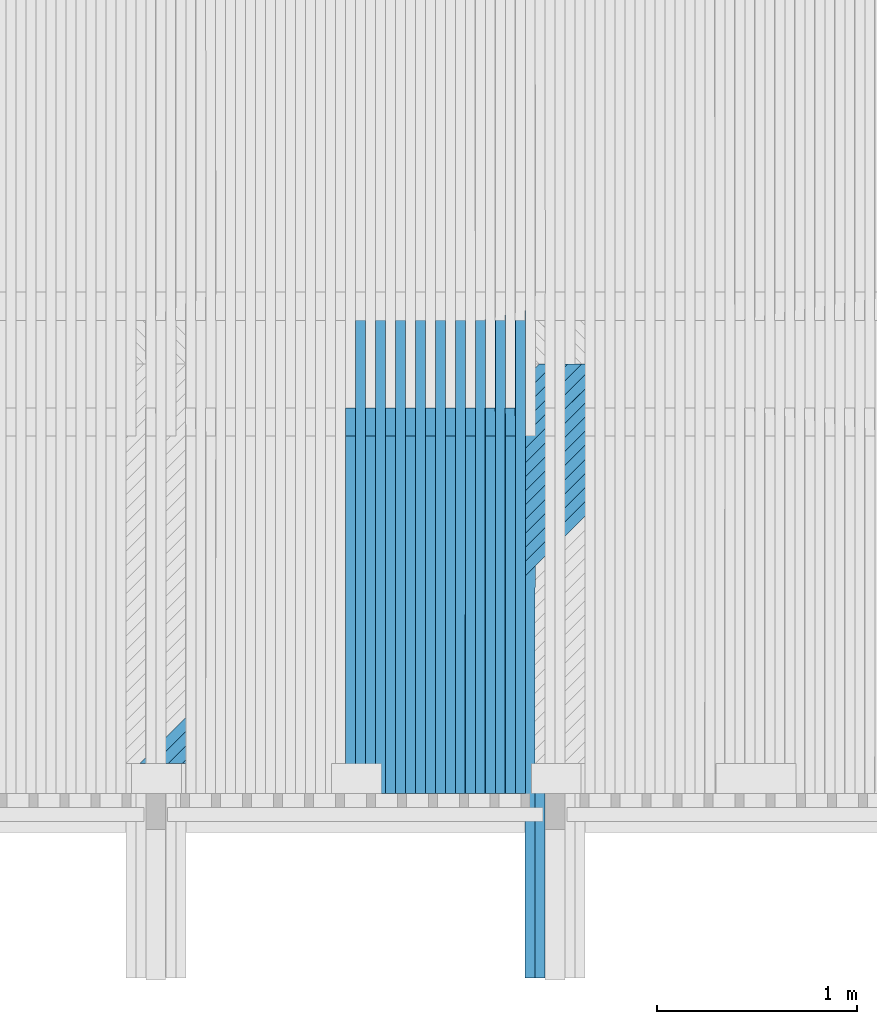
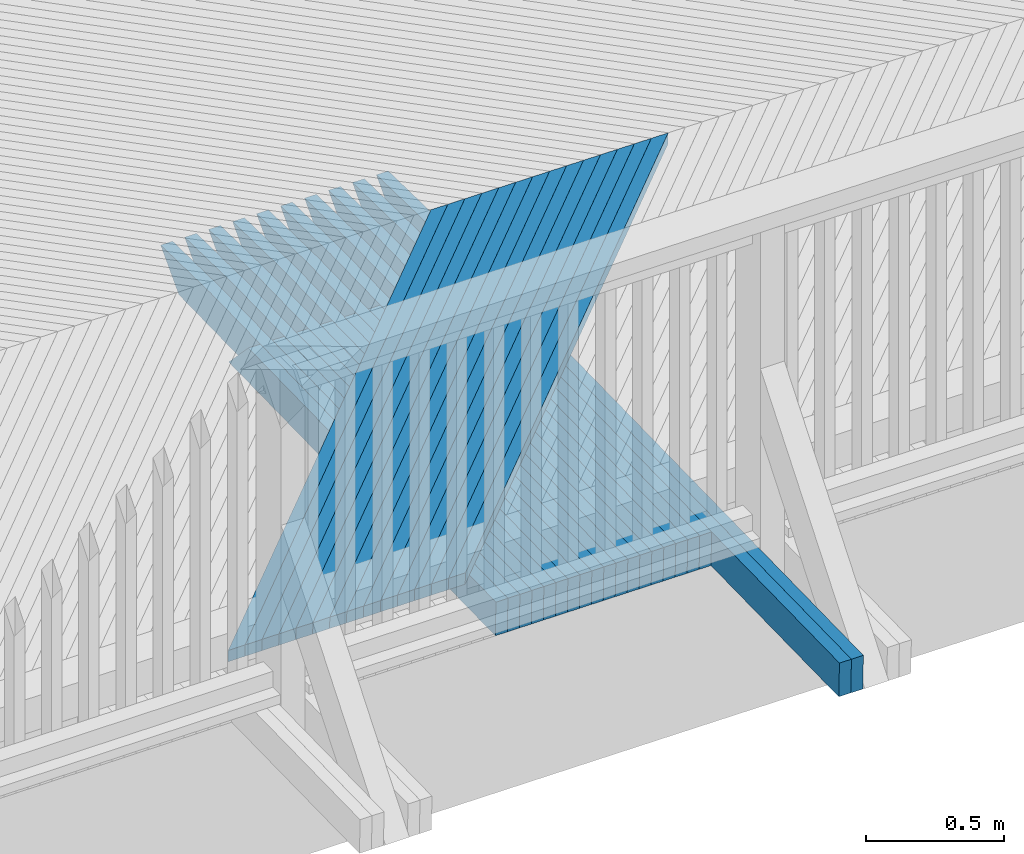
# One storey, part 32 of 53: 34 beams.
"""IFC2X3 building model written with IfcOpenShell, lengths in millimetres."""

from ifc_helpers import new_model, si_unit, frame, origin_with_axes, place, context, subcontext, project, spatial, faceted_brep, material, type_object, element, save


model = new_model("IFC2X3")

# Units and contexts
model_context = context("Model", 3, precision=1e-05, world=origin_with_axes())
body_context = subcontext(model_context, "Body", "Model", "MODEL_VIEW")
ifc_project = project(units=[si_unit("LENGTHUNIT", "METRE", prefix="MILLI"), si_unit("AREAUNIT", "SQUARE_METRE"), si_unit("VOLUMEUNIT", "CUBIC_METRE"), si_unit("MASSUNIT", "GRAM", prefix="KILO"), si_unit("TIMEUNIT", "SECOND"), si_unit("PLANEANGLEUNIT", "RADIAN"), si_unit("SOLIDANGLEUNIT", "STERADIAN"), si_unit("THERMODYNAMICTEMPERATUREUNIT", "DEGREE_CELSIUS"), si_unit("LUMINOUSINTENSITYUNIT", "LUMEN")], contexts=[model_context])

# Site, building, storey
site_placement = place(None, origin_with_axes())
site = spatial("IfcSite", under=ifc_project, at=site_placement, Name="Undefined", CompositionType="ELEMENT")
building_placement = place(site_placement, origin_with_axes())
building = spatial("IfcBuilding", under=site, at=building_placement, Name="Undefined", CompositionType="ELEMENT")
storey_placement = place(building_placement, origin_with_axes())
storey = spatial("IfcBuildingStorey", under=building, at=storey_placement, Name="Undefined", CompositionType="ELEMENT", Elevation=0.0)

# Beams
ifc_material = material(Name="TIMBER/Timber_Undefined")
beam_type_1 = type_object("IfcBeamType", Name="50*50", PredefinedType="NOTDEFINED")
for number, where, z_axis, x_axis, name in (
    (1, (12874.2769605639, 42364.5001003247, 3216.39230435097), (0.70698710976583, -0.706981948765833, -0.0185943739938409), (-0.707198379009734, -0.706948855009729, -0.00968344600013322), "BEAM"),
    (2, (12803.5550110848, 42364.5001003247, 3216.96068661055), (0.706989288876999, -0.706981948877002, -0.0185113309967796), (-0.707197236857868, -0.706948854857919, -0.00976651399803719), "BEAM"),
    (3, (12732.832995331, 42364.5001003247, 3217.52076181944), (0.706991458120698, -0.706981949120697, -0.0184282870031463), (-0.707196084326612, -0.706948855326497, -0.00984958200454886), "BEAM"),
    (4, (12662.1109142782, 42364.5001003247, 3218.07252996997), (0.706993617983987, -0.706981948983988, -0.0183452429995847), (-0.707194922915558, -0.706948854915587, -0.00993264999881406), "BEAM"),
    (5, (12591.3887689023, 42364.5001003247, 3218.61599105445), (0.706995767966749, -0.706981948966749, -0.0182621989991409), (-0.707193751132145, -0.706948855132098, -0.0100157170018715), "BEAM"),
    (6, (12520.666560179, 42364.5001003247, 3219.15114506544), (0.706997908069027, -0.706981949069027, -0.0181791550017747), (-0.707192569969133, -0.706948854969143, -0.0100987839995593), "BEAM"),
    (7, (12449.944289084, 42364.5001003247, 3219.67799199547), (0.707000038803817, -0.706981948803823, -0.0180961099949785), (-0.707191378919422, -0.706948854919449, -0.0101818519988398), "BEAM"),
    (8, (12379.2219565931, 42364.5001003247, 3220.19653183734), (0.70700215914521, -0.706981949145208, -0.0180130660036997), (-0.707190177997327, -0.706948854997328, -0.0102649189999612), "BEAM"),
    (9, (12308.499563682, 42364.5001003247, 3220.70676458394), (0.707004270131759, -0.706981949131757, -0.0179300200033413), (-0.707188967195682, -0.706948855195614, -0.0103479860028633), "BEAM"),
    (10, (12237.7771113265, 42364.5001003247, 3221.20869022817), (0.707006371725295, -0.706981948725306, -0.0178469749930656), (-0.707187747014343, -0.706948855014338, -0.0104310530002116), "BEAM"),
    (11, (12167.0546005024, 42364.5001003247, 3221.70230876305), (0.707008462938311, -0.706981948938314, -0.0177639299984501), (-0.70718651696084, -0.706948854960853, -0.0105141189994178), "BEAM"),
    (12, (12096.3320321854, 42364.5001003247, 3222.18762018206), (0.707010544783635, -0.706981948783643, -0.017680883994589), (-0.707185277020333, -0.706948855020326, -0.0105971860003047), "BEAM"),
    (13, (12025.6094073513, 42364.5001003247, 3222.66462447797), (0.70701261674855, -0.706981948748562, -0.0175978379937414), (-0.707184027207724, -0.706948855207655, -0.0106802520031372), "BEAM"),
    (14, (11954.8867269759, 42364.5001003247, 3223.13332164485), (0.707014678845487, -0.706981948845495, -0.0175147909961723), (-0.707182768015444, -0.706948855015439, -0.0107633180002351), "BEAM"),
):
    element("IfcBeam", number, at=place(storey_placement, frame(where, z_axis=z_axis, x_axis=x_axis)), inside=storey, type_object=beam_type_1, material=ifc_material, Name=name, ObjectType="50*50", context=body_context, shape_type="Brep", body=[
        faceted_brep([(24.8942457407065, 25.0, -25.0), (-25.0086637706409, 24.9999999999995, 24.9999999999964), (2804.34067830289, 25.0, 25.0000000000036), (2854.34301907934, 24.9999999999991, -25.0000000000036), (-26.4222658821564, -25.0000000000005, 25.0000000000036), (2802.92643296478, -25.0, 25.0), (23.4806436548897, -25.0, -25.0), (2852.92877373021, -25.0000000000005, -25.0000000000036)], [[[0, 1, 2, 3]], [[1, 4, 5, 2]], [[4, 6, 7, 5]], [[6, 0, 3, 7]], [[5, 7, 3, 2]], [[6, 4, 1, 0]]]),
    ])
beam_type_2 = type_object("IfcBeamType", Name="150*50", PredefinedType="NOTDEFINED")
beam_1_placement = place(storey_placement, frame((11874.7735217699, 39292.789316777, 3062.2002056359), z_axis=(0.00635604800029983, -0.0199960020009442, 0.999779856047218), x_axis=(0.000128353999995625, 0.999800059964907, 0.0199955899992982)))
element("IfcBeam", 15, at=beam_1_placement, inside=storey, type_object=beam_type_2, material=ifc_material, Name="BEAM", ObjectType="150*50", context=body_context, shape_type="Brep", body=[
    faceted_brep([(1.28420651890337e-08, -24.9999999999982, -74.9999999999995), (-1.28347892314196e-08, -24.9999999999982, 75.0), (-1.28347892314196e-08, 25.0, 75.0), (1.28420651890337e-08, 25.0000000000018, -75.0), (2713.86938248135, -25.0000000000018, 74.9999999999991), (2713.86933800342, 25.0000000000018, 75.0), (2852.32643692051, 24.9999999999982, -75.0000000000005), (2852.32648139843, -25.0000000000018, -75.0000000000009)], [[[0, 1, 2, 3]], [[2, 1, 4, 5]], [[3, 2, 5, 6]], [[0, 3, 6, 7]], [[1, 0, 7, 4]], [[7, 6, 5, 4]]]),
])
beam_2_placement = place(storey_placement, frame((11924.7947374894, 39292.7893321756, 3061.87388867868), z_axis=(0.00652216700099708, -0.0199960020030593, 0.999778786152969), x_axis=(0.000130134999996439, 0.999800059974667, 0.0199955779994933)))
element("IfcBeam", 16, at=beam_2_placement, inside=storey, type_object=beam_type_2, material=ifc_material, Name="BEAM", ObjectType="150*50", context=body_context, shape_type="Brep", body=[
    faceted_brep([(1.28420651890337e-08, -24.9999999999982, -74.9999999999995), (-1.28347892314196e-08, -24.9999999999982, 75.0), (-1.28347892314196e-08, 25.0, 75.0), (1.28420651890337e-08, 25.0000000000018, -75.0), (3298.90492234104, 25.0, -75.0), (3298.90497884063, -24.9999999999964, -75.0), (3434.49251531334, -24.9999999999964, 60.587536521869), (3074.32503029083, -25.0, 75.0000000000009), (3074.32503673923, 25.0000000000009, 75.0), (3434.49245887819, 25.0, 60.5875365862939)], [[[0, 1, 2, 3]], [[0, 3, 4, 5]], [[1, 0, 5, 6, 7]], [[2, 1, 7, 8]], [[4, 3, 2, 8, 9]], [[5, 4, 9, 6]], [[6, 9, 8, 7]]]),
])
beam_3_placement = place(storey_placement, frame((11775.3075869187, 40216.5046076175, 3081.30926986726), z_axis=(0.00619097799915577, -0.019996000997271, 0.999780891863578), x_axis=(0.000123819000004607, 0.999800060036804, 0.0199956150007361)))
element("IfcBeam", 17, at=beam_3_placement, inside=storey, type_object=beam_type_2, material=ifc_material, Name="BEAM", ObjectType="150*50", context=body_context, shape_type="Brep", body=[
    faceted_brep([(1.28420651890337e-08, -24.9999999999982, -74.9999999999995), (-1.28347892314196e-08, -24.9999999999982, 75.0), (-1.28347892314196e-08, 25.0, 75.0), (1.28420651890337e-08, 25.0000000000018, -75.0), (1789.96936433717, -25.0000000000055, 74.9999999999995), (1789.96936408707, 24.9999999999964, 75.0000000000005), (1928.42646328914, 24.9999999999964, -74.9999999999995), (1928.42646353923, -25.0000000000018, -75.0)], [[[0, 1, 2, 3]], [[2, 1, 4, 5]], [[3, 2, 5, 6]], [[0, 3, 6, 7]], [[1, 0, 7, 4]], [[6, 5, 4, 7]]]),
])
beam_4_placement = place(storey_placement, frame((11825.3266087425, 40216.5046076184, 3080.99122584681), z_axis=(0.00635709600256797, -0.0199960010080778, 0.999779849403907), x_axis=(0.000127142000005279, 0.99980006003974, 0.0199955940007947)))
element("IfcBeam", 18, at=beam_4_placement, inside=storey, type_object=beam_type_2, material=ifc_material, Name="BEAM", ObjectType="150*50", context=body_context, shape_type="Brep", body=[
    faceted_brep([(1.28420651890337e-08, -24.9999999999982, -74.9999999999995), (-1.28347892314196e-08, -24.9999999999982, 75.0), (-1.28347892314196e-08, 25.0, 75.0), (1.28420651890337e-08, 25.0000000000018, -75.0), (2375.00494422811, 25.0000000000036, -75.0), (2375.0049444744, -24.9999999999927, -74.9999999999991), (2510.5924871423, -24.9999999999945, 60.5875430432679), (2150.42514405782, -24.9999999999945, 75.0), (2150.42515052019, 25.0000000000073, 75.0), (2510.59248715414, 25.0000000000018, 60.5875433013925)], [[[0, 1, 2, 3]], [[0, 3, 4, 5]], [[1, 0, 5, 6, 7]], [[2, 1, 7, 8]], [[4, 3, 2, 8, 9]], [[5, 4, 9, 6]], [[6, 9, 8, 7]]]),
])
beam_5_placement = place(storey_placement, frame((11675.2894688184, 40216.5046076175, 3081.92824813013), z_axis=(0.00602485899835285, -0.0199960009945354, 0.9997819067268), x_axis=(0.000120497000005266, 0.9998000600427, 0.019995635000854)))
element("IfcBeam", 19, at=beam_5_placement, inside=storey, type_object=beam_type_2, material=ifc_material, Name="BEAM", ObjectType="150*50", context=body_context, shape_type="Brep", body=[
    faceted_brep([(1.28420651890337e-08, -24.9999999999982, -74.9999999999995), (-1.28347892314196e-08, -24.9999999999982, 75.0), (-1.28347892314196e-08, 25.0, 75.0), (1.28420651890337e-08, 25.0000000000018, -75.0), (1789.96936433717, -25.0000000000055, 74.9999999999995), (1789.96936408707, 24.9999999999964, 75.0000000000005), (1928.42646328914, 24.9999999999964, -74.9999999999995), (1928.42646353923, -25.0000000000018, -75.0)], [[[0, 1, 2, 3]], [[2, 1, 4, 5]], [[3, 2, 5, 6]], [[0, 3, 6, 7]], [[1, 0, 7, 4]], [[6, 5, 4, 7]]]),
])
beam_6_placement = place(storey_placement, frame((11725.3085427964, 40216.5046076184, 3081.61851504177), z_axis=(0.00619097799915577, -0.019996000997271, 0.999780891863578), x_axis=(0.000123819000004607, 0.999800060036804, 0.0199956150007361)))
element("IfcBeam", 20, at=beam_6_placement, inside=storey, type_object=beam_type_2, material=ifc_material, Name="BEAM", ObjectType="150*50", context=body_context, shape_type="Brep", body=[
    faceted_brep([(1.28420651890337e-08, -24.9999999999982, -74.9999999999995), (-1.28347892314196e-08, -24.9999999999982, 75.0), (-1.28347892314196e-08, 25.0, 75.0), (1.28420651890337e-08, 25.0000000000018, -75.0), (2375.00494422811, 25.0000000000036, -75.0), (2375.0049444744, -24.9999999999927, -74.9999999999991), (2510.5924871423, -24.9999999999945, 60.5875430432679), (2150.42514405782, -24.9999999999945, 75.0), (2150.42515052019, 25.0000000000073, 75.0), (2510.59248715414, 25.0000000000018, 60.5875433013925)], [[[0, 1, 2, 3]], [[0, 3, 4, 5]], [[1, 0, 5, 6, 7]], [[2, 1, 7, 8]], [[4, 3, 2, 8, 9]], [[5, 4, 9, 6]], [[6, 9, 8, 7]]]),
])
beam_7_placement = place(storey_placement, frame((11575.2712492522, 40216.5046076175, 3082.53060783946), z_axis=(0.00585873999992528, -0.0199960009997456, 0.999782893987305), x_axis=(0.000117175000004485, 0.999800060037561, 0.0199956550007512)))
element("IfcBeam", 21, at=beam_7_placement, inside=storey, type_object=beam_type_2, material=ifc_material, Name="BEAM", ObjectType="150*50", context=body_context, shape_type="Brep", body=[
    faceted_brep([(1.28420651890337e-08, -24.9999999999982, -74.9999999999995), (-1.28347892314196e-08, -24.9999999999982, 75.0), (-1.28347892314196e-08, 25.0, 75.0), (1.28420651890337e-08, 25.0000000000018, -75.0), (1789.96936433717, -25.0000000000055, 74.9999999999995), (1789.96936408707, 24.9999999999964, 75.0000000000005), (1928.42646328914, 24.9999999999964, -74.9999999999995), (1928.42646353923, -25.0000000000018, -75.0)], [[[0, 1, 2, 3]], [[2, 1, 4, 5]], [[3, 2, 5, 6]], [[0, 3, 6, 7]], [[1, 0, 7, 4]], [[6, 5, 4, 7]]]),
])
beam_8_placement = place(storey_placement, frame((11625.2903740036, 40216.5046076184, 3082.22918569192), z_axis=(0.00602485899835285, -0.0199960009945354, 0.9997819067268), x_axis=(0.000120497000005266, 0.9998000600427, 0.019995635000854)))
element("IfcBeam", 22, at=beam_8_placement, inside=storey, type_object=beam_type_2, material=ifc_material, Name="BEAM", ObjectType="150*50", context=body_context, shape_type="Brep", body=[
    faceted_brep([(1.28420651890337e-08, -24.9999999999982, -74.9999999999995), (-1.28347892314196e-08, -24.9999999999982, 75.0), (-1.28347892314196e-08, 25.0, 75.0), (1.28420651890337e-08, 25.0000000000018, -75.0), (2375.00494422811, 25.0000000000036, -75.0), (2375.0049444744, -24.9999999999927, -74.9999999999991), (2510.5924871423, -24.9999999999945, 60.5875430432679), (2150.42514405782, -24.9999999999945, 75.0), (2150.42515052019, 25.0000000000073, 75.0), (2510.59248715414, 25.0000000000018, 60.5875433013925)], [[[0, 1, 2, 3]], [[0, 3, 4, 5]], [[1, 0, 5, 6, 7]], [[2, 1, 7, 8]], [[4, 3, 2, 8, 9]], [[5, 4, 9, 6]], [[6, 9, 8, 7]]]),
])
beam_9_placement = place(storey_placement, frame((11475.2529309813, 40216.5046076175, 3083.11634897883), z_axis=(0.00569262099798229, -0.0199960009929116, 0.999783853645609), x_axis=(0.000113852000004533, 0.999800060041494, 0.0199956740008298)))
element("IfcBeam", 23, at=beam_9_placement, inside=storey, type_object=beam_type_2, material=ifc_material, Name="BEAM", ObjectType="150*50", context=body_context, shape_type="Brep", body=[
    faceted_brep([(1.28420651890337e-08, -24.9999999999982, -74.9999999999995), (-1.28347892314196e-08, -24.9999999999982, 75.0), (-1.28347892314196e-08, 25.0, 75.0), (1.28420651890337e-08, 25.0000000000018, -75.0), (1789.96936433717, -25.0000000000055, 74.9999999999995), (1789.96936408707, 24.9999999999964, 75.0000000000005), (1928.42646328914, 24.9999999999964, -74.9999999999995), (1928.42646353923, -25.0000000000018, -75.0)], [[[0, 1, 2, 3]], [[2, 1, 4, 5]], [[3, 2, 5, 6]], [[0, 3, 6, 7]], [[1, 0, 7, 4]], [[6, 5, 4, 7]]]),
])
beam_10_placement = place(storey_placement, frame((11525.2721051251, 40216.5046076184, 3082.82323778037), z_axis=(0.00585873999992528, -0.0199960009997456, 0.999782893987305), x_axis=(0.000117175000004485, 0.999800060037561, 0.0199956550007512)))
element("IfcBeam", 24, at=beam_10_placement, inside=storey, type_object=beam_type_2, material=ifc_material, Name="BEAM", ObjectType="150*50", context=body_context, shape_type="Brep", body=[
    faceted_brep([(1.28420651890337e-08, -24.9999999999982, -74.9999999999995), (-1.28347892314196e-08, -24.9999999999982, 75.0), (-1.28347892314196e-08, 25.0, 75.0), (1.28420651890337e-08, 25.0000000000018, -75.0), (2375.00494422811, 25.0000000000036, -75.0), (2375.0049444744, -24.9999999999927, -74.9999999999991), (2510.5924871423, -24.9999999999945, 60.5875430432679), (2150.42514405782, -24.9999999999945, 75.0), (2150.42515052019, 25.0000000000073, 75.0), (2510.59248715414, 25.0000000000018, 60.5875433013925)], [[[0, 1, 2, 3]], [[0, 3, 4, 5]], [[1, 0, 5, 6, 7]], [[2, 1, 7, 8]], [[4, 3, 2, 8, 9]], [[5, 4, 9, 6]], [[6, 9, 8, 7]]]),
])
beam_11_placement = place(storey_placement, frame((11375.234516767, 40216.5046076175, 3083.68547153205), z_axis=(0.00552650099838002, -0.0199960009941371, 0.999784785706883), x_axis=(0.000110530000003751, 0.999800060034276, 0.0199956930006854)))
element("IfcBeam", 25, at=beam_11_placement, inside=storey, type_object=beam_type_2, material=ifc_material, Name="BEAM", ObjectType="150*50", context=body_context, shape_type="Brep", body=[
    faceted_brep([(1.28420651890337e-08, -24.9999999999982, -74.9999999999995), (-1.28347892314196e-08, -24.9999999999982, 75.0), (-1.28347892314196e-08, 25.0, 75.0), (1.28420651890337e-08, 25.0000000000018, -75.0), (1789.96936433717, -25.0000000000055, 74.9999999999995), (1789.96936408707, 24.9999999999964, 75.0000000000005), (1928.42646328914, 24.9999999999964, -74.9999999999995), (1928.42646353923, -25.0000000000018, -75.0)], [[[0, 1, 2, 3]], [[2, 1, 4, 5]], [[3, 2, 5, 6]], [[0, 3, 6, 7]], [[1, 0, 7, 4]], [[6, 5, 4, 7]]]),
])
beam_12_placement = place(storey_placement, frame((11425.2537389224, 40216.5046076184, 3083.4006712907), z_axis=(0.00569262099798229, -0.0199960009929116, 0.999783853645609), x_axis=(0.000113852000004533, 0.999800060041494, 0.0199956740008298)))
element("IfcBeam", 26, at=beam_12_placement, inside=storey, type_object=beam_type_2, material=ifc_material, Name="BEAM", ObjectType="150*50", context=body_context, shape_type="Brep", body=[
    faceted_brep([(1.28420651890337e-08, -24.9999999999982, -74.9999999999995), (-1.28347892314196e-08, -24.9999999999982, 75.0), (-1.28347892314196e-08, 25.0, 75.0), (1.28420651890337e-08, 25.0000000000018, -75.0), (2375.00494422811, 25.0000000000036, -75.0), (2375.0049444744, -24.9999999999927, -74.9999999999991), (2510.5924871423, -24.9999999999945, 60.5875430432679), (2150.42514405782, -24.9999999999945, 75.0), (2150.42515052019, 25.0000000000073, 75.0), (2510.59248715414, 25.0000000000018, 60.5875433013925)], [[[0, 1, 2, 3]], [[0, 3, 4, 5]], [[1, 0, 5, 6, 7]], [[2, 1, 7, 8]], [[4, 3, 2, 8, 9]], [[5, 4, 9, 6]], [[6, 9, 8, 7]]]),
])
beam_13_placement = place(storey_placement, frame((11275.2160093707, 40216.5046076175, 3084.23797548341), z_axis=(0.00536038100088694, -0.0199960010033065, 0.999785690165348), x_axis=(0.000107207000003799, 0.999800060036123, 0.0199957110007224)))
element("IfcBeam", 27, at=beam_13_placement, inside=storey, type_object=beam_type_2, material=ifc_material, Name="BEAM", ObjectType="150*50", context=body_context, shape_type="Brep", body=[
    faceted_brep([(1.28420651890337e-08, -24.9999999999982, -74.9999999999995), (-1.28347892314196e-08, -24.9999999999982, 75.0), (-1.28347892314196e-08, 25.0, 75.0), (1.28420651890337e-08, 25.0000000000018, -75.0), (1789.96936433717, -25.0000000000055, 74.9999999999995), (1789.96936408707, 24.9999999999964, 75.0000000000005), (1928.42646328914, 24.9999999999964, -74.9999999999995), (1928.42646353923, -25.0000000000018, -75.0)], [[[0, 1, 2, 3]], [[2, 1, 4, 5]], [[3, 2, 5, 6]], [[0, 3, 6, 7]], [[1, 0, 7, 4]], [[6, 5, 4, 7]]]),
])
beam_14_placement = place(storey_placement, frame((11325.2352781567, 40216.5046076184, 3083.96148620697), z_axis=(0.00552650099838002, -0.0199960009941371, 0.999784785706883), x_axis=(0.000110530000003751, 0.999800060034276, 0.0199956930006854)))
element("IfcBeam", 28, at=beam_14_placement, inside=storey, type_object=beam_type_2, material=ifc_material, Name="BEAM", ObjectType="150*50", context=body_context, shape_type="Brep", body=[
    faceted_brep([(1.28420651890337e-08, -24.9999999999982, -74.9999999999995), (-1.28347892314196e-08, -24.9999999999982, 75.0), (-1.28347892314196e-08, 25.0, 75.0), (1.28420651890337e-08, 25.0000000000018, -75.0), (2375.00494422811, 25.0000000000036, -75.0), (2375.0049444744, -24.9999999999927, -74.9999999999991), (2510.5924871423, -24.9999999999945, 60.5875430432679), (2150.42514405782, -24.9999999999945, 75.0), (2150.42515052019, 25.0000000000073, 75.0), (2510.59248715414, 25.0000000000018, 60.5875433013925)], [[[0, 1, 2, 3]], [[0, 3, 4, 5]], [[1, 0, 5, 6, 7]], [[2, 1, 7, 8]], [[4, 3, 2, 8, 9]], [[5, 4, 9, 6]], [[6, 9, 8, 7]]]),
])
beam_15_placement = place(storey_placement, frame((11175.1974115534, 40216.5046076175, 3084.77386081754), z_axis=(0.00519426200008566, -0.0199960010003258, 0.999786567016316), x_axis=(0.000103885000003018, 0.999800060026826, 0.0199957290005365)))
element("IfcBeam", 29, at=beam_15_placement, inside=storey, type_object=beam_type_2, material=ifc_material, Name="BEAM", ObjectType="150*50", context=body_context, shape_type="Brep", body=[
    faceted_brep([(1.28420651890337e-08, -24.9999999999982, -74.9999999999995), (-1.28347892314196e-08, -24.9999999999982, 75.0), (-1.28347892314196e-08, 25.0, 75.0), (1.28420651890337e-08, 25.0000000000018, -75.0), (1789.96936433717, -25.0000000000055, 74.9999999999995), (1789.96936408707, 24.9999999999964, 75.0000000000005), (1928.42646328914, 24.9999999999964, -74.9999999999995), (1928.42646353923, -25.0000000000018, -75.0)], [[[0, 1, 2, 3]], [[2, 1, 4, 5]], [[3, 2, 5, 6]], [[0, 3, 6, 7]], [[1, 0, 7, 4]], [[6, 5, 4, 7]]]),
])
beam_16_placement = place(storey_placement, frame((11225.2167255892, 40216.5046076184, 3084.50568251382), z_axis=(0.00536038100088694, -0.0199960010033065, 0.999785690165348), x_axis=(0.000107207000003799, 0.999800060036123, 0.0199957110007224)))
element("IfcBeam", 30, at=beam_16_placement, inside=storey, type_object=beam_type_2, material=ifc_material, Name="BEAM", ObjectType="150*50", context=body_context, shape_type="Brep", body=[
    faceted_brep([(1.28420651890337e-08, -24.9999999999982, -74.9999999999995), (-1.28347892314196e-08, -24.9999999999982, 75.0), (-1.28347892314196e-08, 25.0, 75.0), (1.28420651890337e-08, 25.0000000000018, -75.0), (2375.00494422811, 25.0000000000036, -75.0), (2375.0049444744, -24.9999999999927, -74.9999999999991), (2510.5924871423, -24.9999999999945, 60.5875430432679), (2150.42514405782, -24.9999999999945, 75.0), (2150.42515052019, 25.0000000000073, 75.0), (2510.59248715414, 25.0000000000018, 60.5875433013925)], [[[0, 1, 2, 3]], [[0, 3, 4, 5]], [[1, 0, 5, 6, 7]], [[2, 1, 7, 8]], [[4, 3, 2, 8, 9]], [[5, 4, 9, 6]], [[6, 9, 8, 7]]]),
])
beam_17_placement = place(storey_placement, frame((11075.1787260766, 40216.5046076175, 3085.29312751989), z_axis=(0.005028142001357, -0.0199960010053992, 0.999787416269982), x_axis=(0.000100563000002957, 0.999800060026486, 0.0199957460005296)))
element("IfcBeam", 31, at=beam_17_placement, inside=storey, type_object=beam_type_2, material=ifc_material, Name="BEAM", ObjectType="150*50", context=body_context, shape_type="Brep", body=[
    faceted_brep([(1.28420651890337e-08, -24.9999999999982, -74.9999999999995), (-1.28347892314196e-08, -24.9999999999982, 75.0), (-1.28347892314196e-08, 25.0, 75.0), (1.28420651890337e-08, 25.0000000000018, -75.0), (1789.96936433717, -25.0000000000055, 74.9999999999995), (1789.96936408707, 24.9999999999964, 75.0000000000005), (1928.42646328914, 24.9999999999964, -74.9999999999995), (1928.42646353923, -25.0000000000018, -75.0)], [[[0, 1, 2, 3]], [[2, 1, 4, 5]], [[3, 2, 5, 6]], [[0, 3, 6, 7]], [[1, 0, 7, 4]], [[6, 5, 4, 7]]]),
])
beam_18_placement = place(storey_placement, frame((11125.1980839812, 40216.5046076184, 3085.03326019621), z_axis=(0.00519426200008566, -0.0199960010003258, 0.999786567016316), x_axis=(0.000103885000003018, 0.999800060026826, 0.0199957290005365)))
element("IfcBeam", 32, at=beam_18_placement, inside=storey, type_object=beam_type_2, material=ifc_material, Name="BEAM", ObjectType="150*50", context=body_context, shape_type="Brep", body=[
    faceted_brep([(1.28420651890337e-08, -24.9999999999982, -74.9999999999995), (-1.28347892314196e-08, -24.9999999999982, 75.0), (-1.28347892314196e-08, 25.0, 75.0), (1.28420651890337e-08, 25.0000000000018, -75.0), (2375.00494422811, 25.0000000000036, -75.0), (2375.0049444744, -24.9999999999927, -74.9999999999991), (2510.5924871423, -24.9999999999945, 60.5875430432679), (2150.42514405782, -24.9999999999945, 75.0), (2150.42515052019, 25.0000000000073, 75.0), (2510.59248715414, 25.0000000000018, 60.5875433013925)], [[[0, 1, 2, 3]], [[0, 3, 4, 5]], [[1, 0, 5, 6, 7]], [[2, 1, 7, 8]], [[4, 3, 2, 8, 9]], [[5, 4, 9, 6]], [[6, 9, 8, 7]]]),
])
beam_19_placement = place(storey_placement, frame((10975.1599557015, 40216.5046076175, 3085.79577557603), z_axis=(0.00486202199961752, -0.0199960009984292, 0.999788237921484), x_axis=(9.72400000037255e-05, 0.999800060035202, 0.0199957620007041)))
element("IfcBeam", 33, at=beam_19_placement, inside=storey, type_object=beam_type_2, material=ifc_material, Name="BEAM", ObjectType="150*50", context=body_context, shape_type="Brep", body=[
    faceted_brep([(1.28420651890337e-08, -24.9999999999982, -74.9999999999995), (-1.28347892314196e-08, -24.9999999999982, 75.0), (-1.28347892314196e-08, 25.0, 75.0), (1.28420651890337e-08, 25.0000000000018, -75.0), (1789.96936433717, -25.0000000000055, 74.9999999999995), (1789.96936408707, 24.9999999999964, 75.0000000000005), (1928.42646328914, 24.9999999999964, -74.9999999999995), (1928.42646353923, -25.0000000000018, -75.0)], [[[0, 1, 2, 3]], [[2, 1, 4, 5]], [[3, 2, 5, 6]], [[0, 3, 6, 7]], [[1, 0, 7, 4]], [[6, 5, 4, 7]]]),
])
beam_20_placement = place(storey_placement, frame((11025.179356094, 40216.5046076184, 3085.5442192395), z_axis=(0.005028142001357, -0.0199960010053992, 0.999787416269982), x_axis=(0.000100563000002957, 0.999800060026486, 0.0199957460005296)))
element("IfcBeam", 34, at=beam_20_placement, inside=storey, type_object=beam_type_2, material=ifc_material, Name="BEAM", ObjectType="150*50", context=body_context, shape_type="Brep", body=[
    faceted_brep([(1.28420651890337e-08, -24.9999999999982, -74.9999999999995), (-1.28347892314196e-08, -24.9999999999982, 75.0), (-1.28347892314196e-08, 25.0, 75.0), (1.28420651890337e-08, 25.0000000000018, -75.0), (2375.00494422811, 25.0000000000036, -75.0), (2375.0049444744, -24.9999999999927, -74.9999999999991), (2510.5924871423, -24.9999999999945, 60.5875430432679), (2150.42514405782, -24.9999999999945, 75.0), (2150.42515052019, 25.0000000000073, 75.0), (2510.59248715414, 25.0000000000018, 60.5875433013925)], [[[0, 1, 2, 3]], [[0, 3, 4, 5]], [[1, 0, 5, 6, 7]], [[2, 1, 7, 8]], [[4, 3, 2, 8, 9]], [[5, 4, 9, 6]], [[6, 9, 8, 7]]]),
])

save(model, "model.ifc")
